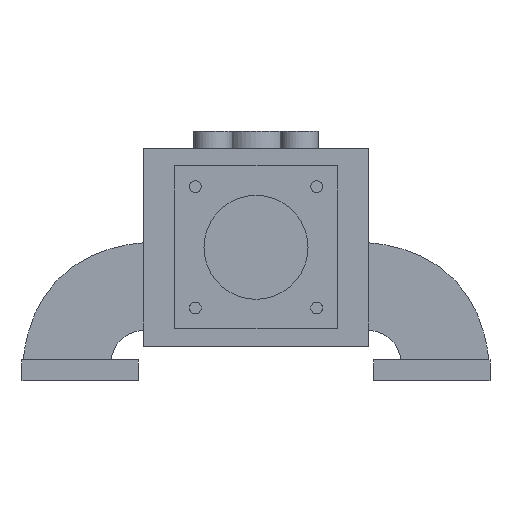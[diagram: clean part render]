
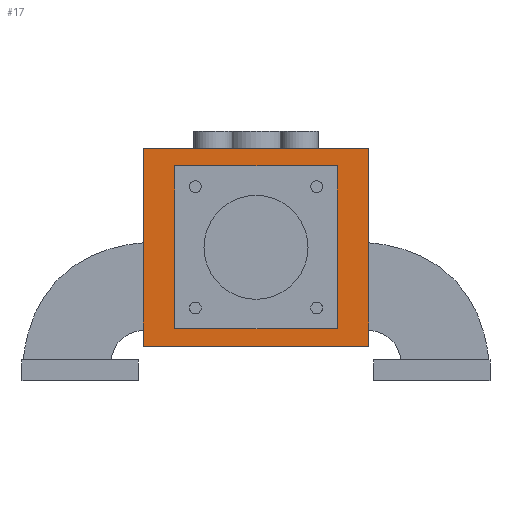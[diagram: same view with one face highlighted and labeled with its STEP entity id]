
A CAD part, left-side view. The second image highlights one B-rep face of the part: STEP entity #17.
In plain terms, the highlighted planar face has unit normal (-1, 0, 0).
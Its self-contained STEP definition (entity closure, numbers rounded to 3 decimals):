
#17 = ADVANCED_FACE('',(#18,#137),#32,.F.);
#18 = FACE_BOUND('',#19,.F.);
#19 = EDGE_LOOP('',(#20,#55,#83,#111));
#20 = ORIENTED_EDGE('',*,*,#21,.F.);
#21 = EDGE_CURVE('',#22,#24,#26,.T.);
#22 = VERTEX_POINT('',#23);
#23 = CARTESIAN_POINT('',(-17.5,-65.,440.));
#24 = VERTEX_POINT('',#25);
#25 = CARTESIAN_POINT('',(-17.5,-65.,553.907));
#26 = SURFACE_CURVE('',#27,(#31,#43),.PCURVE_S1.);
#27 = LINE('',#28,#29);
#28 = CARTESIAN_POINT('',(-17.5,-65.,440.));
#29 = VECTOR('',#30,1.);
#30 = DIRECTION('',(0.,0.,1.));
#31 = PCURVE('',#32,#37);
#32 = PLANE('',#33);
#33 = AXIS2_PLACEMENT_3D('',#34,#35,#36);
#34 = CARTESIAN_POINT('',(-17.5,-65.,440.));
#35 = DIRECTION('',(1.,0.,-0.));
#36 = DIRECTION('',(0.,0.,1.));
#37 = DEFINITIONAL_REPRESENTATION('',(#38),#42);
#38 = LINE('',#39,#40);
#39 = CARTESIAN_POINT('',(0.,0.));
#40 = VECTOR('',#41,1.);
#41 = DIRECTION('',(1.,0.));
#42 = ( GEOMETRIC_REPRESENTATION_CONTEXT(2) 
PARAMETRIC_REPRESENTATION_CONTEXT() REPRESENTATION_CONTEXT('2D SPACE',''
  ) );
#43 = PCURVE('',#44,#49);
#44 = PLANE('',#45);
#45 = AXIS2_PLACEMENT_3D('',#46,#47,#48);
#46 = CARTESIAN_POINT('',(-17.5,-65.,440.));
#47 = DIRECTION('',(-0.,1.,0.));
#48 = DIRECTION('',(0.,0.,1.));
#49 = DEFINITIONAL_REPRESENTATION('',(#50),#54);
#50 = LINE('',#51,#52);
#51 = CARTESIAN_POINT('',(0.,0.));
#52 = VECTOR('',#53,1.);
#53 = DIRECTION('',(1.,0.));
#54 = ( GEOMETRIC_REPRESENTATION_CONTEXT(2) 
PARAMETRIC_REPRESENTATION_CONTEXT() REPRESENTATION_CONTEXT('2D SPACE',''
  ) );
#55 = ORIENTED_EDGE('',*,*,#56,.T.);
#56 = EDGE_CURVE('',#22,#57,#59,.T.);
#57 = VERTEX_POINT('',#58);
#58 = CARTESIAN_POINT('',(-17.5,65.,440.));
#59 = SURFACE_CURVE('',#60,(#64,#71),.PCURVE_S1.);
#60 = LINE('',#61,#62);
#61 = CARTESIAN_POINT('',(-17.5,-65.,440.));
#62 = VECTOR('',#63,1.);
#63 = DIRECTION('',(-0.,1.,0.));
#64 = PCURVE('',#32,#65);
#65 = DEFINITIONAL_REPRESENTATION('',(#66),#70);
#66 = LINE('',#67,#68);
#67 = CARTESIAN_POINT('',(0.,0.));
#68 = VECTOR('',#69,1.);
#69 = DIRECTION('',(0.,-1.));
#70 = ( GEOMETRIC_REPRESENTATION_CONTEXT(2) 
PARAMETRIC_REPRESENTATION_CONTEXT() REPRESENTATION_CONTEXT('2D SPACE',''
  ) );
#71 = PCURVE('',#72,#77);
#72 = PLANE('',#73);
#73 = AXIS2_PLACEMENT_3D('',#74,#75,#76);
#74 = CARTESIAN_POINT('',(-17.5,-65.,440.));
#75 = DIRECTION('',(0.,0.,1.));
#76 = DIRECTION('',(1.,0.,-0.));
#77 = DEFINITIONAL_REPRESENTATION('',(#78),#82);
#78 = LINE('',#79,#80);
#79 = CARTESIAN_POINT('',(0.,0.));
#80 = VECTOR('',#81,1.);
#81 = DIRECTION('',(0.,1.));
#82 = ( GEOMETRIC_REPRESENTATION_CONTEXT(2) 
PARAMETRIC_REPRESENTATION_CONTEXT() REPRESENTATION_CONTEXT('2D SPACE',''
  ) );
#83 = ORIENTED_EDGE('',*,*,#84,.T.);
#84 = EDGE_CURVE('',#57,#85,#87,.T.);
#85 = VERTEX_POINT('',#86);
#86 = CARTESIAN_POINT('',(-17.5,65.,553.907));
#87 = SURFACE_CURVE('',#88,(#92,#99),.PCURVE_S1.);
#88 = LINE('',#89,#90);
#89 = CARTESIAN_POINT('',(-17.5,65.,440.));
#90 = VECTOR('',#91,1.);
#91 = DIRECTION('',(0.,0.,1.));
#92 = PCURVE('',#32,#93);
#93 = DEFINITIONAL_REPRESENTATION('',(#94),#98);
#94 = LINE('',#95,#96);
#95 = CARTESIAN_POINT('',(0.,-130.));
#96 = VECTOR('',#97,1.);
#97 = DIRECTION('',(1.,0.));
#98 = ( GEOMETRIC_REPRESENTATION_CONTEXT(2) 
PARAMETRIC_REPRESENTATION_CONTEXT() REPRESENTATION_CONTEXT('2D SPACE',''
  ) );
#99 = PCURVE('',#100,#105);
#100 = PLANE('',#101);
#101 = AXIS2_PLACEMENT_3D('',#102,#103,#104);
#102 = CARTESIAN_POINT('',(-17.5,65.,440.));
#103 = DIRECTION('',(-0.,1.,0.));
#104 = DIRECTION('',(0.,0.,1.));
#105 = DEFINITIONAL_REPRESENTATION('',(#106),#110);
#106 = LINE('',#107,#108);
#107 = CARTESIAN_POINT('',(0.,0.));
#108 = VECTOR('',#109,1.);
#109 = DIRECTION('',(1.,0.));
#110 = ( GEOMETRIC_REPRESENTATION_CONTEXT(2) 
PARAMETRIC_REPRESENTATION_CONTEXT() REPRESENTATION_CONTEXT('2D SPACE',''
  ) );
#111 = ORIENTED_EDGE('',*,*,#112,.F.);
#112 = EDGE_CURVE('',#24,#85,#113,.T.);
#113 = SURFACE_CURVE('',#114,(#118,#125),.PCURVE_S1.);
#114 = LINE('',#115,#116);
#115 = CARTESIAN_POINT('',(-17.5,-65.,553.907));
#116 = VECTOR('',#117,1.);
#117 = DIRECTION('',(-0.,1.,0.));
#118 = PCURVE('',#32,#119);
#119 = DEFINITIONAL_REPRESENTATION('',(#120),#124);
#120 = LINE('',#121,#122);
#121 = CARTESIAN_POINT('',(113.907,0.));
#122 = VECTOR('',#123,1.);
#123 = DIRECTION('',(0.,-1.));
#124 = ( GEOMETRIC_REPRESENTATION_CONTEXT(2) 
PARAMETRIC_REPRESENTATION_CONTEXT() REPRESENTATION_CONTEXT('2D SPACE',''
  ) );
#125 = PCURVE('',#126,#131);
#126 = PLANE('',#127);
#127 = AXIS2_PLACEMENT_3D('',#128,#129,#130);
#128 = CARTESIAN_POINT('',(-17.5,-65.,553.907));
#129 = DIRECTION('',(0.,0.,1.));
#130 = DIRECTION('',(1.,0.,-0.));
#131 = DEFINITIONAL_REPRESENTATION('',(#132),#136);
#132 = LINE('',#133,#134);
#133 = CARTESIAN_POINT('',(0.,0.));
#134 = VECTOR('',#135,1.);
#135 = DIRECTION('',(0.,1.));
#136 = ( GEOMETRIC_REPRESENTATION_CONTEXT(2) 
PARAMETRIC_REPRESENTATION_CONTEXT() REPRESENTATION_CONTEXT('2D SPACE',''
  ) );
#137 = FACE_BOUND('',#138,.F.);
#138 = EDGE_LOOP('',(#139,#169,#197,#225));
#139 = ORIENTED_EDGE('',*,*,#140,.F.);
#140 = EDGE_CURVE('',#141,#143,#145,.T.);
#141 = VERTEX_POINT('',#142);
#142 = CARTESIAN_POINT('',(-17.5,-47.,449.953));
#143 = VERTEX_POINT('',#144);
#144 = CARTESIAN_POINT('',(-17.5,47.,449.953));
#145 = SURFACE_CURVE('',#146,(#150,#157),.PCURVE_S1.);
#146 = LINE('',#147,#148);
#147 = CARTESIAN_POINT('',(-17.5,-47.,449.953));
#148 = VECTOR('',#149,1.);
#149 = DIRECTION('',(0.,1.,0.));
#150 = PCURVE('',#32,#151);
#151 = DEFINITIONAL_REPRESENTATION('',(#152),#156);
#152 = LINE('',#153,#154);
#153 = CARTESIAN_POINT('',(9.953,-18.));
#154 = VECTOR('',#155,1.);
#155 = DIRECTION('',(0.,-1.));
#156 = ( GEOMETRIC_REPRESENTATION_CONTEXT(2) 
PARAMETRIC_REPRESENTATION_CONTEXT() REPRESENTATION_CONTEXT('2D SPACE',''
  ) );
#157 = PCURVE('',#158,#163);
#158 = PLANE('',#159);
#159 = AXIS2_PLACEMENT_3D('',#160,#161,#162);
#160 = CARTESIAN_POINT('',(-17.5,-47.,449.953));
#161 = DIRECTION('',(0.,0.,-1.));
#162 = DIRECTION('',(-1.,0.,0.));
#163 = DEFINITIONAL_REPRESENTATION('',(#164),#168);
#164 = LINE('',#165,#166);
#165 = CARTESIAN_POINT('',(0.,0.));
#166 = VECTOR('',#167,1.);
#167 = DIRECTION('',(0.,1.));
#168 = ( GEOMETRIC_REPRESENTATION_CONTEXT(2) 
PARAMETRIC_REPRESENTATION_CONTEXT() REPRESENTATION_CONTEXT('2D SPACE',''
  ) );
#169 = ORIENTED_EDGE('',*,*,#170,.F.);
#170 = EDGE_CURVE('',#171,#141,#173,.T.);
#171 = VERTEX_POINT('',#172);
#172 = CARTESIAN_POINT('',(-17.5,-47.,543.953));
#173 = SURFACE_CURVE('',#174,(#178,#185),.PCURVE_S1.);
#174 = LINE('',#175,#176);
#175 = CARTESIAN_POINT('',(-17.5,-47.,543.953));
#176 = VECTOR('',#177,1.);
#177 = DIRECTION('',(0.,0.,-1.));
#178 = PCURVE('',#32,#179);
#179 = DEFINITIONAL_REPRESENTATION('',(#180),#184);
#180 = LINE('',#181,#182);
#181 = CARTESIAN_POINT('',(103.953,-18.));
#182 = VECTOR('',#183,1.);
#183 = DIRECTION('',(-1.,0.));
#184 = ( GEOMETRIC_REPRESENTATION_CONTEXT(2) 
PARAMETRIC_REPRESENTATION_CONTEXT() REPRESENTATION_CONTEXT('2D SPACE',''
  ) );
#185 = PCURVE('',#186,#191);
#186 = PLANE('',#187);
#187 = AXIS2_PLACEMENT_3D('',#188,#189,#190);
#188 = CARTESIAN_POINT('',(-17.5,-47.,543.953));
#189 = DIRECTION('',(0.,1.,0.));
#190 = DIRECTION('',(-1.,0.,0.));
#191 = DEFINITIONAL_REPRESENTATION('',(#192),#196);
#192 = LINE('',#193,#194);
#193 = CARTESIAN_POINT('',(0.,0.));
#194 = VECTOR('',#195,1.);
#195 = DIRECTION('',(0.,-1.));
#196 = ( GEOMETRIC_REPRESENTATION_CONTEXT(2) 
PARAMETRIC_REPRESENTATION_CONTEXT() REPRESENTATION_CONTEXT('2D SPACE',''
  ) );
#197 = ORIENTED_EDGE('',*,*,#198,.T.);
#198 = EDGE_CURVE('',#171,#199,#201,.T.);
#199 = VERTEX_POINT('',#200);
#200 = CARTESIAN_POINT('',(-17.5,47.,543.953));
#201 = SURFACE_CURVE('',#202,(#206,#213),.PCURVE_S1.);
#202 = LINE('',#203,#204);
#203 = CARTESIAN_POINT('',(-17.5,-47.,543.953));
#204 = VECTOR('',#205,1.);
#205 = DIRECTION('',(0.,1.,0.));
#206 = PCURVE('',#32,#207);
#207 = DEFINITIONAL_REPRESENTATION('',(#208),#212);
#208 = LINE('',#209,#210);
#209 = CARTESIAN_POINT('',(103.953,-18.));
#210 = VECTOR('',#211,1.);
#211 = DIRECTION('',(0.,-1.));
#212 = ( GEOMETRIC_REPRESENTATION_CONTEXT(2) 
PARAMETRIC_REPRESENTATION_CONTEXT() REPRESENTATION_CONTEXT('2D SPACE',''
  ) );
#213 = PCURVE('',#214,#219);
#214 = PLANE('',#215);
#215 = AXIS2_PLACEMENT_3D('',#216,#217,#218);
#216 = CARTESIAN_POINT('',(-17.5,-47.,543.953));
#217 = DIRECTION('',(0.,0.,-1.));
#218 = DIRECTION('',(-1.,0.,0.));
#219 = DEFINITIONAL_REPRESENTATION('',(#220),#224);
#220 = LINE('',#221,#222);
#221 = CARTESIAN_POINT('',(0.,0.));
#222 = VECTOR('',#223,1.);
#223 = DIRECTION('',(0.,1.));
#224 = ( GEOMETRIC_REPRESENTATION_CONTEXT(2) 
PARAMETRIC_REPRESENTATION_CONTEXT() REPRESENTATION_CONTEXT('2D SPACE',''
  ) );
#225 = ORIENTED_EDGE('',*,*,#226,.T.);
#226 = EDGE_CURVE('',#199,#143,#227,.T.);
#227 = SURFACE_CURVE('',#228,(#232,#239),.PCURVE_S1.);
#228 = LINE('',#229,#230);
#229 = CARTESIAN_POINT('',(-17.5,47.,543.953));
#230 = VECTOR('',#231,1.);
#231 = DIRECTION('',(0.,0.,-1.));
#232 = PCURVE('',#32,#233);
#233 = DEFINITIONAL_REPRESENTATION('',(#234),#238);
#234 = LINE('',#235,#236);
#235 = CARTESIAN_POINT('',(103.953,-112.));
#236 = VECTOR('',#237,1.);
#237 = DIRECTION('',(-1.,0.));
#238 = ( GEOMETRIC_REPRESENTATION_CONTEXT(2) 
PARAMETRIC_REPRESENTATION_CONTEXT() REPRESENTATION_CONTEXT('2D SPACE',''
  ) );
#239 = PCURVE('',#240,#245);
#240 = PLANE('',#241);
#241 = AXIS2_PLACEMENT_3D('',#242,#243,#244);
#242 = CARTESIAN_POINT('',(-17.5,47.,543.953));
#243 = DIRECTION('',(0.,1.,0.));
#244 = DIRECTION('',(-1.,0.,0.));
#245 = DEFINITIONAL_REPRESENTATION('',(#246),#250);
#246 = LINE('',#247,#248);
#247 = CARTESIAN_POINT('',(0.,0.));
#248 = VECTOR('',#249,1.);
#249 = DIRECTION('',(0.,-1.));
#250 = ( GEOMETRIC_REPRESENTATION_CONTEXT(2) 
PARAMETRIC_REPRESENTATION_CONTEXT() REPRESENTATION_CONTEXT('2D SPACE',''
  ) );
